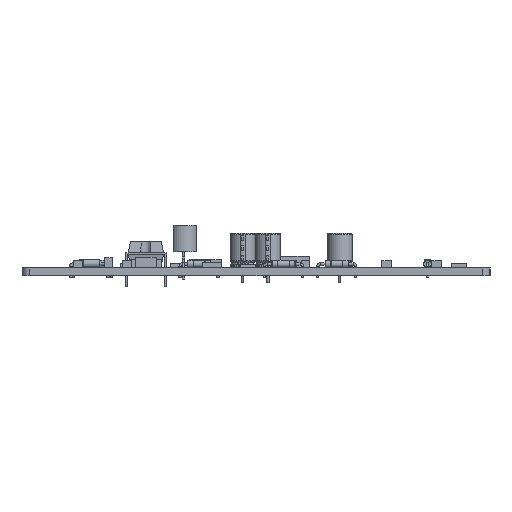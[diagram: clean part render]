
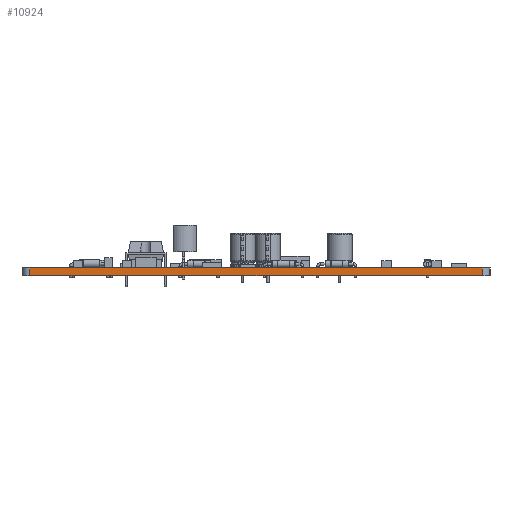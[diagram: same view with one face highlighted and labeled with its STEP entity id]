
A CAD part, left-side view. The second image highlights one B-rep face of the part: STEP entity #10924.
In plain terms, the highlighted planar face has unit normal (-1, 0, 0).
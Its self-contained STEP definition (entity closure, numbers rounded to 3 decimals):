
#592=PLANE('',#11993);
#1089=FACE_OUTER_BOUND('',#1648,.T.);
#1648=EDGE_LOOP('',(#7864,#7865,#7866,#7867));
#2548=LINE('',#16730,#3530);
#2549=LINE('',#16733,#3531);
#2550=LINE('',#16735,#3532);
#2551=LINE('',#16736,#3533);
#3530=VECTOR('',#13740,10.);
#3531=VECTOR('',#13743,10.);
#3532=VECTOR('',#13744,10.);
#3533=VECTOR('',#13745,10.);
#5136=VERTEX_POINT('',#16726);
#5137=VERTEX_POINT('',#16728);
#5138=VERTEX_POINT('',#16732);
#5139=VERTEX_POINT('',#16734);
#6246=EDGE_CURVE('',#5136,#5137,#2548,.T.);
#6247=EDGE_CURVE('',#5138,#5136,#2549,.T.);
#6248=EDGE_CURVE('',#5139,#5137,#2550,.T.);
#6249=EDGE_CURVE('',#5138,#5139,#2551,.T.);
#7864=ORIENTED_EDGE('',*,*,#6247,.T.);
#7865=ORIENTED_EDGE('',*,*,#6246,.T.);
#7866=ORIENTED_EDGE('',*,*,#6248,.F.);
#7867=ORIENTED_EDGE('',*,*,#6249,.F.);
#10924=ADVANCED_FACE('',(#1089),#592,.T.);
#11993=AXIS2_PLACEMENT_3D('',#16731,#13741,#13742);
#13740=DIRECTION('',(0.,0.,1.));
#13741=DIRECTION('center_axis',(-1.,0.,0.));
#13742=DIRECTION('ref_axis',(0.,-1.,0.));
#13743=DIRECTION('',(0.,-1.,0.));
#13744=DIRECTION('',(0.,-1.,0.));
#13745=DIRECTION('',(0.,0.,1.));
#16726=CARTESIAN_POINT('',(0.,1.54,0.));
#16728=CARTESIAN_POINT('',(0.,1.54,1.57));
#16730=CARTESIAN_POINT('',(0.,1.54,0.));
#16731=CARTESIAN_POINT('Origin',(0.,93.46,0.));
#16732=CARTESIAN_POINT('',(0.,93.46,0.));
#16733=CARTESIAN_POINT('',(0.,93.46,0.));
#16734=CARTESIAN_POINT('',(0.,93.46,1.57));
#16735=CARTESIAN_POINT('',(0.,93.46,1.57));
#16736=CARTESIAN_POINT('',(0.,93.46,0.));
